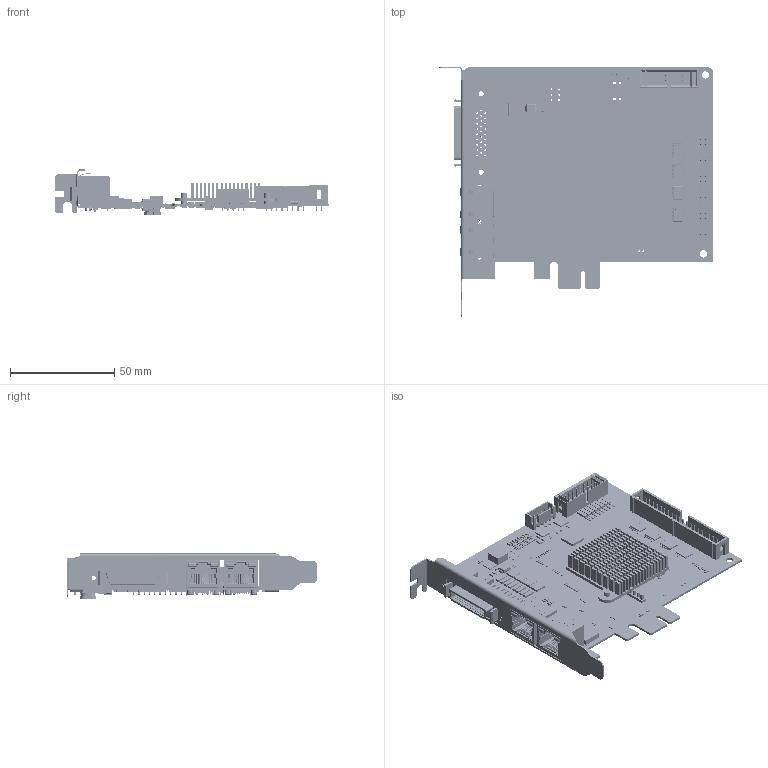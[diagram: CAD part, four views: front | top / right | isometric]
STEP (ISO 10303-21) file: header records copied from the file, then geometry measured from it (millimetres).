
FILE_DESCRIPTION((''),'2;1');
FILE_NAME('000000XPCIE203200_ASM','2025-07-22T11:04:10',('admin'),(''),'CREO PARAMETRIC BY PTC INC, 2021063','CREO PARAMETRIC BY PTC INC, 2021063','');
FILE_SCHEMA(('CONFIG_CONTROL_DESIGN','SHAPE_APPEARANCE_LAYERS_GROUPS'));
Products named in the file (1697): OPEN_CASCADE_STEP_TRANSLATOR_7_; BOARD_ASM; EXTRUDED-10064; 7038125840_ASM; EXTRUDED-10256; 7038125680_ASM; RT700_ASM; EXTRUDED-11096; 9290216176_ASM; EXTRUDED-13136; 9290216096_ASM; EXTRUDED-14488; 7006192224_ASM; P_ASM; EXTRUDED-15463; 9091217904_ASM; U102_ASM; EXTRUDED-15686; 6594081968_ASM; EXTRUDED-15878; 6594082208_ASM; R112_ASM; R111_ASM; EXTRUDED-16152; 6553306448_ASM; EXTRUDED-16344; 6553306768_ASM; EXTRUDED-16536; 6553306608_ASM; R110_ASM; EXTRUDED-16759; 6553309088_ASM; EXTRUDED-16951; 6553308928_ASM; EXTRUDED-17143; 6553308768_ASM; R109_ASM; EXTRUDED-17370; 6593405920_ASM; EXTRUDED-17562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
Assembly tree (2963 placements, depth 5):
  000000XPCIE203200_ASM
    PCB_ASM
      BOARD_ASM
        OPEN_CASCADE_STEP_TRANSLATOR_7_
      RT700_ASM
        7038125840_ASM
          EXTRUDED-10064
        7038125680_ASM  x2
          EXTRUDED-10256
      P_ASM
        9290216176_ASM
          EXTRUDED-11096
        9290216096_ASM  x2
          EXTRUDED-13136
        7006192224_ASM  x153
          EXTRUDED-14488
      U102_ASM
        9091217904_ASM
          EXTRUDED-15463
      R112_ASM
        6594081968_ASM
          EXTRUDED-15686
        6594082208_ASM  x2
          EXTRUDED-15878
      R111_ASM
        6594081968_ASM
          EXTRUDED-15686
        6594082208_ASM  x2
          EXTRUDED-15878
      R110_ASM
        6553306448_ASM
          EXTRUDED-16152
        6553306768_ASM
          EXTRUDED-16344
        6553306608_ASM
          EXTRUDED-16536
      R109_ASM
        6553309088_ASM
          EXTRUDED-16759
        6553308928_ASM
          EXTRUDED-16951
        6553308768_ASM
          EXTRUDED-17143
      Q100_ASM
        6593405920_ASM
          EXTRUDED-17370
        6593405760_ASM  x3
          EXTRUDED-17562
      P100_ASM
        6868454416_ASM
          EXTRUDED-17787
      C115_ASM
        CAP_0402
      C114_ASM
        CAP_0402
      C113_ASM
        6593415840_ASM
          EXTRUDED-19262
        6553301328_ASM  x2
          EXTRUDED-19454
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Bounding box: 131.91 x 120.2 x 21.65 mm (x, y, z)
Volume: 30373.2 mm3; surface area: 71971.9 mm2
Topology: 1403 solids, 3467 shells, 17392 faces, 46677 edges, 33945 vertices
Faces by surface type: plane 13903, cylinder 2473, sphere 550, extrusion 277, torus 92, bspline 75, cone 22
Entity records: 292202 total; most frequent: CARTESIAN_POINT 56870, DIRECTION 40686, ORIENTED_EDGE 25270, EDGE_CURVE 15617, AXIS2_PLACEMENT_3D 14020, VECTOR 12646, LINE 12468, VERTEX_POINT 12172
